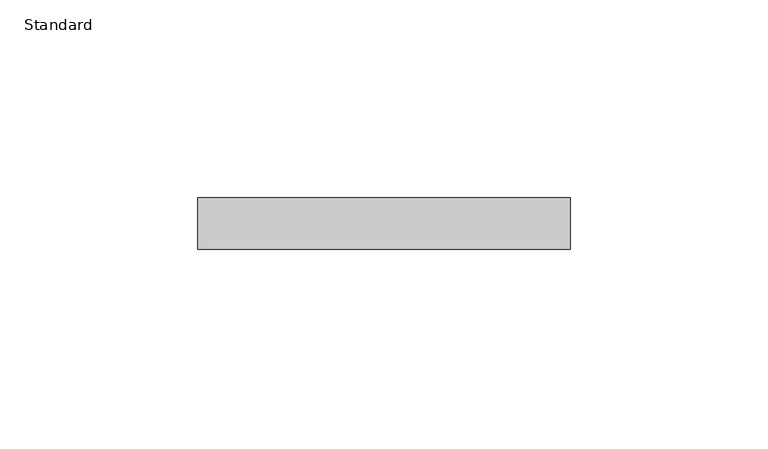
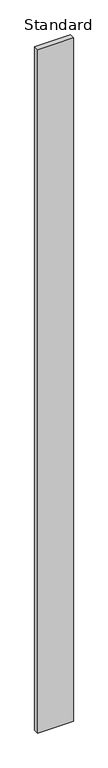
"""IFC4 building model written with IfcOpenShell, lengths in millimetres: furniture geometry, X_Partition-Compact Laminate-Duracube-Rectangular : Standard."""

from ifc_helpers import new_model, si_unit, origin, origin_with_axes, place, context, project, spatial, polyline, outline, extrude, source, transform, mapped, element, save


def standard_56c17008(model_context):
    return source(origin(), model_context, "Body", "SweptSolid", [
        extrude(outline(polyline([(91.7003264, 0.0), (91.7003264, -13.0), (-2.2996736, -13.0), (-2.2996736, 0.0), (91.7003264, 0.0)])), origin_with_axes(), (0.0, 0.0, 1.0), 1900.0),
    ])


if __name__ == "__main__":
    model = new_model("IFC4")
    model_context = context("Model", 3, world=origin())
    ifc_project = project(units=[si_unit("LENGTHUNIT", "METRE", prefix="MILLI")], contexts=[model_context])
    site = spatial("IfcSite", under=ifc_project)
    building = spatial("IfcBuilding", under=site)
    placement = place(None, origin())
    standard_shape = standard_56c17008(model_context)
    element("IfcFurniture", 1, ObjectType="X_Partition-Compact Laminate-Duracube-Rectangular : Standard", at=placement, inside=building, context=model_context, shape_type="MappedRepresentation", body=[
        mapped(standard_shape, transform((0.0, 0.0, 0.0), x_axis=(1.0, 0.0, 0.0), y_axis=(0.0, 1.0, 0.0), z_axis=(0.0, 0.0, 1.0))),
    ])
    save(model, "model.ifc")
